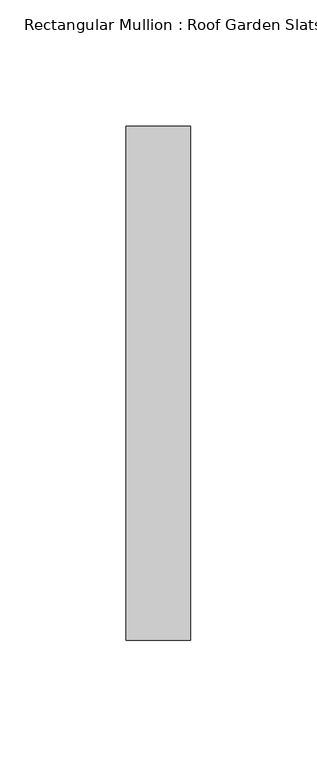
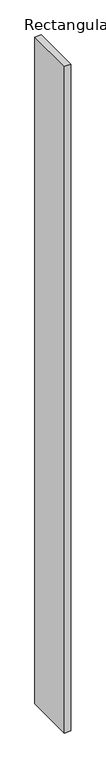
"""IFC4 building model written with IfcOpenShell, lengths in millimetres: member geometry, Rectangular Mullion : Roof Garden Slats."""

from ifc_helpers import new_model, si_unit, frame, origin, place, context, project, spatial, polyline, outline, extrude, source, transform, mapped, element, save


def rectangular_mullion_roof_garden_slats_bfffb309(model_context):
    return source(origin(), model_context, "Body", "SweptSolid", [
        extrude(outline(polyline([(12.7, 139.7), (12.7, -63.5), (-12.7, -63.5), (-12.7, 139.7), (12.7, 139.7)])), frame((0.0, 0.0, -2809.5393371), z_axis=(0.0, 0.0, 1.0), x_axis=(1.0, 0.0, 0.0)), (0.0, 0.0, 1.0), 2809.5393371),
    ])


if __name__ == "__main__":
    model = new_model("IFC4")
    model_context = context("Model", 3, world=origin())
    ifc_project = project(units=[si_unit("LENGTHUNIT", "METRE", prefix="MILLI")], contexts=[model_context])
    site = spatial("IfcSite", under=ifc_project)
    building = spatial("IfcBuilding", under=site)
    placement = place(None, origin())
    rectangular_mullion_roof_garden_slats_shape = rectangular_mullion_roof_garden_slats_bfffb309(model_context)
    element("IfcMember", 1, ObjectType="Rectangular Mullion : Roof Garden Slats", at=placement, inside=building, context=model_context, shape_type="MappedRepresentation", body=[
        mapped(rectangular_mullion_roof_garden_slats_shape, transform((0.0, 0.0, 0.0), x_axis=(1.0, 0.0, 0.0), y_axis=(0.0, 1.0, 0.0), z_axis=(0.0, 0.0, 1.0))),
    ])
    save(model, "model.ifc")
